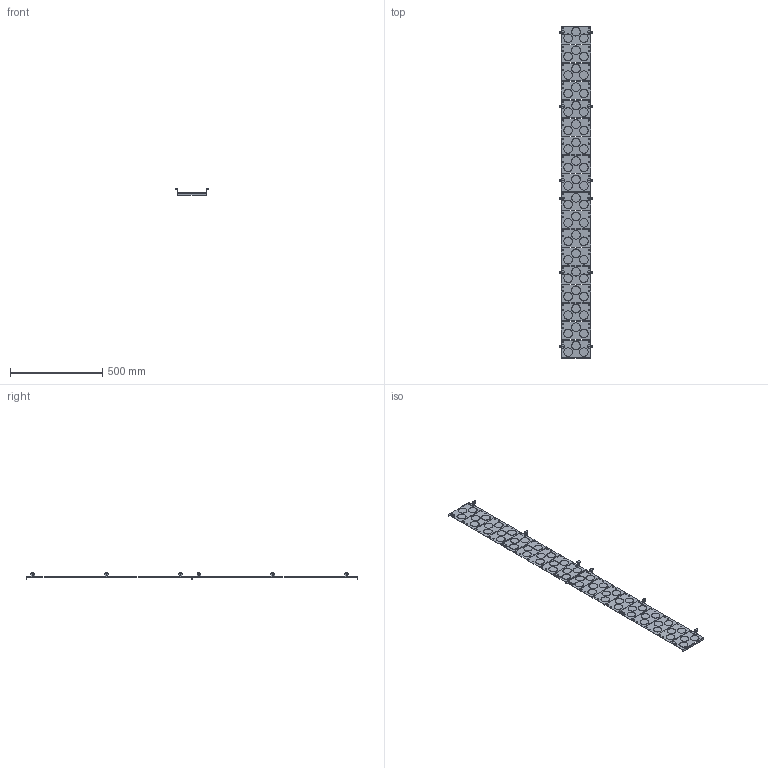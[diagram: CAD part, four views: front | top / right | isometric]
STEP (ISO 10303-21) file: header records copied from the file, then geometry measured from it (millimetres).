
FILE_DESCRIPTION(('CAx-IF Rec.Pracs.---Model Styling and Organization---1.2---2011-12-15','CAx-IF Rec.Pracs.---Geometric and Assembly Validation Properties---4.1---2014-06-16','CAx-IF Rec.Pracs.---PMI Polyline Presentation---2.0---2013-05-24'),'2;1');
FILE_NAME('R5SBD2260.stp','2021-05-06T03:01:27+03:00',(''),(''),'STEP Interface 4.4 by CT CoreTechnologie','3D_Evolution4.4 by CT CoreTechnologie','');
FILE_SCHEMA(('AUTOMOTIVE_DESIGN { 1 0 10303 214 1 1 1 1 }'));
Length unit declared in the file: millimetre
Products named in the file (3): R5SBD2260; RB.0520.00.00.0; RB.0503.00.00.0_-04
Assembly tree (14 placements, depth 2):
  R5SBD2260
    RB.0520.00.00.0  x12
    RB.0503.00.00.0_-04  x2
Bounding box: 184 x 1798 x 33.5 mm (x, y, z)
Surface area: 619749.2 mm2 (no closed solid volume)
Topology: 0 solids, 14 shells, 1640 faces, 4932 edges, 3304 vertices
Faces by surface type: plane 944, cylinder 696
Entity records: 24284 total; most frequent: CARTESIAN_POINT 4143, ORIENTED_EDGE 4132, DIRECTION 4092, EDGE_CURVE 2066, VECTOR 1450, LINE 1450, VERTEX_POINT 1372, AXIS2_PLACEMENT_3D 1321
